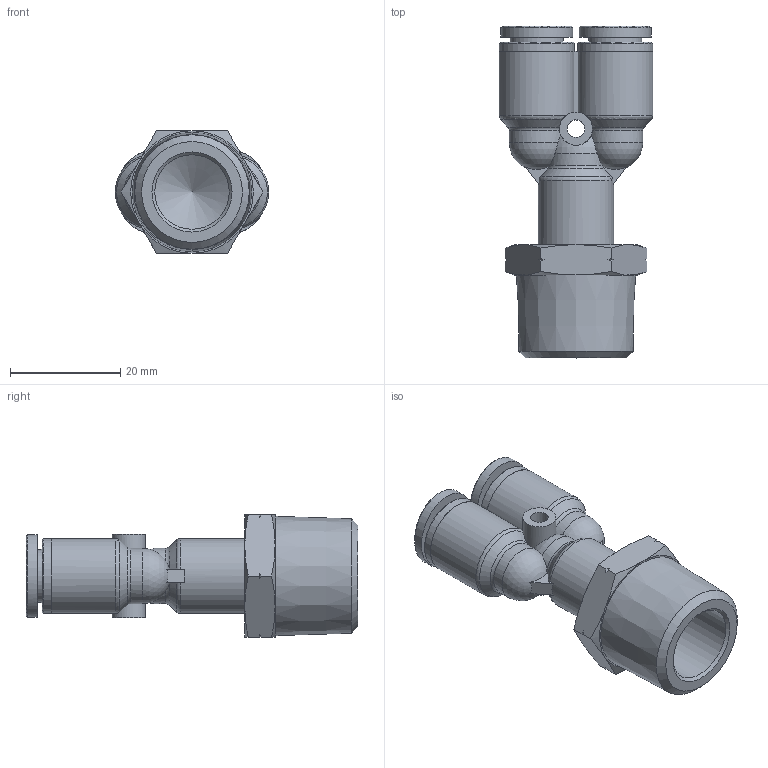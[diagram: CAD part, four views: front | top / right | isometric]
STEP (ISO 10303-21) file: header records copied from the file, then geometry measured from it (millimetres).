
FILE_DESCRIPTION((''),'2;1');
FILE_NAME('C:\Users\user0117\Desktop\김진일\G-FITTING INCH\5-16\G-FITTING INCH (STEP)\GPWT 5-16 N04U.stp','2020-04-22T13:40:59',('user0117'),(''),'Autodesk Inventor 2013','Autodesk Inventor 2013','');
FILE_SCHEMA(('AUTOMOTIVE_DESIGN { 1 0 10303 214 1 1 1 1 }'));
Length unit declared in the file: millimetre
Products named in the file (6): GPWT 5-16 N04U; GPY BODY-08(PLASTIC); G-COLLAR 5-16L; COLLAR G08L; SLEEVE G08; GPWT BODY 5-16 N04(BRASS)
Assembly tree (6 placements, depth 3):
  GPWT 5-16 N04U
    GPY BODY-08(PLASTIC)
    G-COLLAR 5-16L  x2
      COLLAR G08L
      SLEEVE G08
    GPWT BODY 5-16 N04(BRASS)
Bounding box: 27.8 x 60.1 x 22.23 mm (x, y, z)
Volume: 11523.2 mm3; surface area: 8459.2 mm2
Topology: 6 solids, 6 shells, 827 faces, 2310 edges, 1534 vertices
Faces by surface type: plane 701, bspline 40, cone 39, cylinder 35, torus 8, sphere 4
Full cylindrical faces by diameter (mm): 3.2 x1, 6 x2, 8.2 x8, 9.6 x2, 13.5 x1, 13.6 x3
Entity records: 14880 total; most frequent: CARTESIAN_POINT 3354, ORIENTED_EDGE 2464, DIRECTION 2165, EDGE_CURVE 1232, VECTOR 1001, LINE 1001, VERTEX_POINT 828, AXIS2_PLACEMENT_3D 582
